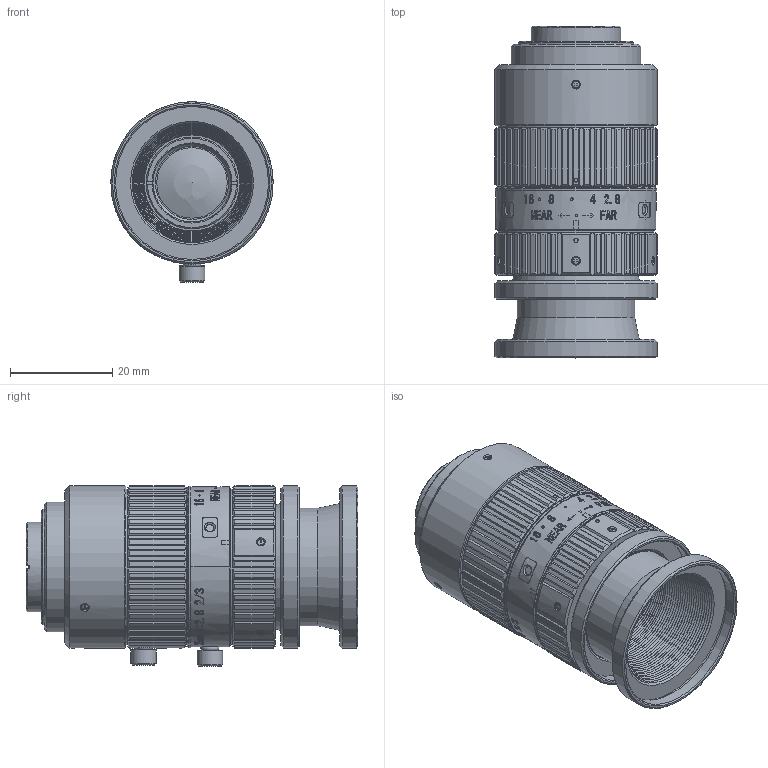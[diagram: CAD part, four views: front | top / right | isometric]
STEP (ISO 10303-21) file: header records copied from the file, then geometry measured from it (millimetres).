
FILE_DESCRIPTION(/* description */ ('Unknown'),/* implementation_level */ '2;1');
FILE_NAME(/* name */ 'M3528-MPX_Outline',/* time_stamp */ '2023-12-20T11:15:14+09:00',/* author */ ('Unknown'),/* organization */ ('Unknown'),/* preprocessor_version */ 'ST-DEVELOPER v18.102',/* originating_system */ 'Solid Edge',/* authorisation */ 'Unknown');
FILE_SCHEMA (('AUTOMOTIVE_DESIGN {1 0 10303 214 3 1 1}'));
Products named in the file (6): M3528-MPX_Outline; M3528MPX_Fixed barrel; M3528MPX_Moving barrel; Name-Seal; M3528MPX_Barrel-Unit; Fix screw
Assembly tree (7 placements, depth 2):
  M3528-MPX_Outline
    M3528MPX_Fixed barrel
    M3528MPX_Moving barrel  x2
    Name-Seal
    M3528MPX_Barrel-Unit
    Fix screw  x2
Bounding box: 31.8 x 65 x 35.35 mm (x, y, z)
Volume: 32599.6 mm3; surface area: 21931.4 mm2
Topology: 9 solids, 9 shells, 1310 faces, 3353 edges, 2178 vertices
Faces by surface type: plane 656, cylinder 237, cone 222, bspline 174, sphere 19, torus 2
Full cylindrical faces by diameter (mm): 0.8 x2, 1.321 x8, 1.5 x2, 1.567 x3, 2 x3, 2.4 x1, 2.8 x1, 3 x1, 4.5 x1, 4.999 x2, 12.2 x1, 14.3 x2, 15.3 x2, 17.5 x1, 18.8 x2, 19.2 x2, 19.459 x1, 20 x1, 20.1 x1, 20.5 x2, 20.8 x4, 21 x1, 21.5 x2, 22.6 x1, 22.65 x1, 23 x2, 25.4 x1, 25.5 x1, 29.959 x2, 30.4 x3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
Entity records: 53312 total; most frequent: CARTESIAN_POINT 18667, ORIENTED_EDGE 5702, DIRECTION 4669, EDGE_CURVE 2851, VERTEX_POINT 1975, AXIS2_PLACEMENT_3D 1775, FACE_BOUND 1476, EDGE_LOOP 1475
